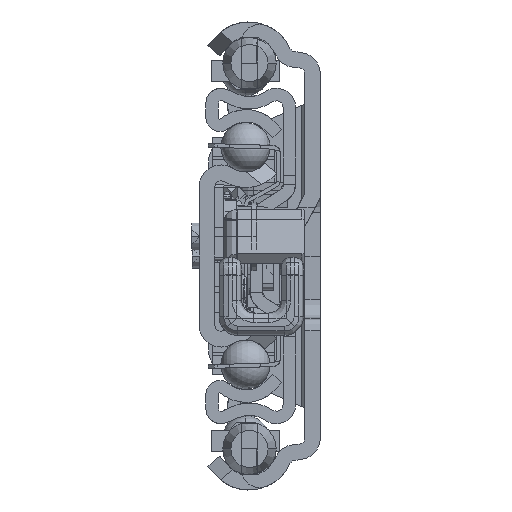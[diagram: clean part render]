
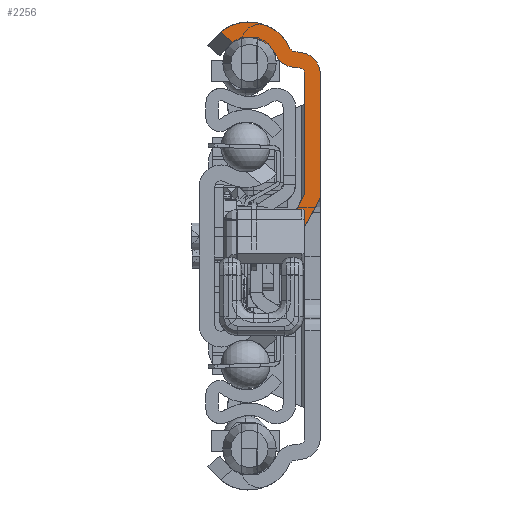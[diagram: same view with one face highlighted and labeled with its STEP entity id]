
A CAD part, left-side view. The second image highlights one B-rep face of the part: STEP entity #2256.
In plain terms, the highlighted planar face has unit normal (-1, 0, 0).
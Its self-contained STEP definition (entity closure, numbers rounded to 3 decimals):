
#1=DIRECTION('',(0.,-0.769,-0.639));
#2=VECTOR('',#1,2.575);
#3=CARTESIAN_POINT('',(0.,16.079,36.021));
#4=LINE('',#3,#2);
#5=CARTESIAN_POINT('',(0.,11.5,30.4));
#6=DIRECTION('',(1.,0.,0.));
#7=DIRECTION('',(0.,0.632,0.775));
#8=AXIS2_PLACEMENT_3D('',#5,#6,#7);
#10=DIRECTION('',(0.,-0.996,-0.087));
#11=VECTOR('',#10,0.904);
#12=CARTESIAN_POINT('',(0.,4.095,32.858));
#13=LINE('',#12,#11);
#14=CARTESIAN_POINT('',(0.,3.5,29.293));
#15=DIRECTION('',(-1.,0.,0.));
#16=DIRECTION('',(0.,-1.,0.));
#17=AXIS2_PLACEMENT_3D('',#14,#15,#16);
#19=CARTESIAN_POINT('',(0.,2.5,9.942));
#20=DIRECTION('',(1.,0.,0.));
#21=DIRECTION('',(0.,-1.,0.));
#22=AXIS2_PLACEMENT_3D('',#19,#20,#21);
#24=DIRECTION('',(0.,-1.,0.));
#25=VECTOR('',#24,2.78);
#26=CARTESIAN_POINT('',(0.,6.177,3.04));
#27=LINE('',#26,#25);
#28=CARTESIAN_POINT('',(0.,0.5,1.099));
#29=DIRECTION('',(-1.,0.,0.));
#30=DIRECTION('',(0.,0.879,0.477));
#31=AXIS2_PLACEMENT_3D('',#28,#29,#30);
#33=DIRECTION('',(0.,0.477,-0.879));
#34=VECTOR('',#33,6.873);
#35=CARTESIAN_POINT('',(0.,2.5,10.));
#36=LINE('',#35,#34);
#37=DIRECTION('',(0.,0.,1.));
#38=VECTOR('',#37,19.293);
#39=CARTESIAN_POINT('',(0.,2.5,10.));
#40=LINE('',#39,#38);
#41=DIRECTION('',(0.,0.996,0.087));
#42=VECTOR('',#41,0.904);
#43=CARTESIAN_POINT('',(0.,3.413,30.289));
#44=LINE('',#43,#42);
#45=CARTESIAN_POINT('',(0.,4.008,33.854));
#46=DIRECTION('',(-1.,0.,0.));
#47=DIRECTION('',(0.,0.908,-0.419));
#48=AXIS2_PLACEMENT_3D('',#45,#46,#47);
#50=CARTESIAN_POINT('',(0.,11.5,30.4));
#51=DIRECTION('',(-1.,0.,0.));
#52=DIRECTION('',(0.,-0.908,0.419));
#53=AXIS2_PLACEMENT_3D('',#50,#51,#52);
#99=CARTESIAN_POINT('',(0.,14.098,34.377));
#147=CARTESIAN_POINT('',(0.,3.5,29.293));
#148=DIRECTION('',(1.,0.,0.));
#149=DIRECTION('',(0.,-0.087,0.996));
#150=AXIS2_PLACEMENT_3D('',#147,#148,#149);
#636=DIRECTION('',(0.,0.,1.));
#637=VECTOR('',#636,19.351);
#638=CARTESIAN_POINT('',(0.,0.,9.942));
#639=LINE('',#638,#637);
#957=CARTESIAN_POINT('',(0.,16.079,
36.021));
#1392=CARTESIAN_POINT('',(0.,4.008,33.854));
#1393=DIRECTION('',(1.,0.,0.));
#1394=DIRECTION('',(0.,0.087,-0.996));
#1395=AXIS2_PLACEMENT_3D('',#1392,#1393,#1394);
#1489=CARTESIAN_POINT('',(0.,3.397,3.04));
#1494=DIRECTION('',(0.,-0.477,0.879));
#1495=VECTOR('',#1494,6.495);
#1496=CARTESIAN_POINT('',(0.,3.397,3.04));
#1497=LINE('',#1496,#1495);
#1732=CARTESIAN_POINT('',(0.,3.413,30.289));
#1733=CARTESIAN_POINT('',(0.,2.5,29.293));
#1734=VERTEX_POINT('',#1732);
#1735=VERTEX_POINT('',#1733);
#1736=CARTESIAN_POINT('',(0.,4.095,32.858));
#1737=CARTESIAN_POINT('',(0.,4.916,33.436));
#1738=VERTEX_POINT('',#1736);
#1739=VERTEX_POINT('',#1737);
#1748=CARTESIAN_POINT('',(0.,7.186,32.389));
#1749=CARTESIAN_POINT('',(0.,4.313,30.368));
#1750=VERTEX_POINT('',#1748);
#1751=VERTEX_POINT('',#1749);
#1752=CARTESIAN_POINT('',(0.,0.,29.293));
#1753=CARTESIAN_POINT('',(0.,3.195,32.78));
#1754=VERTEX_POINT('',#1752);
#1755=VERTEX_POINT('',#1753);
#1848=CARTESIAN_POINT('',(0.,2.5,10.));
#1849=VERTEX_POINT('',#1848);
#1908=CARTESIAN_POINT('',(0.,0.,9.942));
#1910=VERTEX_POINT('',#1908);
#1913=CARTESIAN_POINT('',(0.,0.302,8.751));
#1914=VERTEX_POINT('',#1913);
#1917=CARTESIAN_POINT('',(0.,5.775,3.958));
#1918=VERTEX_POINT('',#1917);
#1919=CARTESIAN_POINT('',(0.,6.177,3.04));
#1920=VERTEX_POINT('',#1919);
#1923=VERTEX_POINT('',#1489);
#2175=VERTEX_POINT('',#99);
#2183=VERTEX_POINT('',#957);
#2217=CARTESIAN_POINT('',(0.,0.,0.));
#2218=DIRECTION('',(1.,0.,0.));
#2219=DIRECTION('',(0.,-1.,0.));
#2220=AXIS2_PLACEMENT_3D('',#2217,#2218,#2219);
#2221=PLANE('',#2220);
#2223=ORIENTED_EDGE('',*,*,#2222,.F.);
#2225=ORIENTED_EDGE('',*,*,#2224,.T.);
#2227=ORIENTED_EDGE('',*,*,#2226,.F.);
#2229=ORIENTED_EDGE('',*,*,#2228,.T.);
#2231=ORIENTED_EDGE('',*,*,#2230,.F.);
#2233=ORIENTED_EDGE('',*,*,#2232,.F.);
#2235=ORIENTED_EDGE('',*,*,#2234,.T.);
#2237=ORIENTED_EDGE('',*,*,#2236,.F.);
#2239=ORIENTED_EDGE('',*,*,#2238,.F.);
#2241=ORIENTED_EDGE('',*,*,#2240,.F.);
#2243=ORIENTED_EDGE('',*,*,#2242,.F.);
#2245=ORIENTED_EDGE('',*,*,#2244,.T.);
#2247=ORIENTED_EDGE('',*,*,#2246,.F.);
#2249=ORIENTED_EDGE('',*,*,#2248,.T.);
#2251=ORIENTED_EDGE('',*,*,#2250,.F.);
#2253=ORIENTED_EDGE('',*,*,#2252,.T.);
#2254=EDGE_LOOP('',(#2223,#2225,#2227,#2229,#2231,#2233,#2235,#2237,#2239,#2241,
#2243,#2245,#2247,#2249,#2251,#2253));
#2255=FACE_OUTER_BOUND('',#2254,.F.);
#9=CIRCLE('',#8,7.25);
#18=CIRCLE('',#17,3.5);
#23=CIRCLE('',#22,2.5);
#32=CIRCLE('',#31,6.);
#49=CIRCLE('',#48,3.5);
#54=CIRCLE('',#53,4.75);
#151=CIRCLE('',#150,1.);
#1396=CIRCLE('',#1395,1.);
#2222=EDGE_CURVE('',#2183,#2175,#4,.T.);
#2224=EDGE_CURVE('',#2183,#1739,#9,.T.);
#2226=EDGE_CURVE('',#1738,#1739,#1396,.T.);
#2228=EDGE_CURVE('',#1738,#1755,#13,.T.);
#2230=EDGE_CURVE('',#1754,#1755,#18,.T.);
#2232=EDGE_CURVE('',#1910,#1754,#639,.T.);
#2234=EDGE_CURVE('',#1910,#1914,#23,.T.);
#2236=EDGE_CURVE('',#1923,#1914,#1497,.T.);
#2238=EDGE_CURVE('',#1920,#1923,#27,.T.);
#2240=EDGE_CURVE('',#1918,#1920,#32,.T.);
#2242=EDGE_CURVE('',#1849,#1918,#36,.T.);
#2244=EDGE_CURVE('',#1849,#1735,#40,.T.);
#2246=EDGE_CURVE('',#1734,#1735,#151,.T.);
#2248=EDGE_CURVE('',#1734,#1751,#44,.T.);
#2250=EDGE_CURVE('',#1750,#1751,#49,.T.);
#2252=EDGE_CURVE('',#1750,#2175,#54,.T.);
#2256=ADVANCED_FACE('',(#2255),#2221,.F.);
